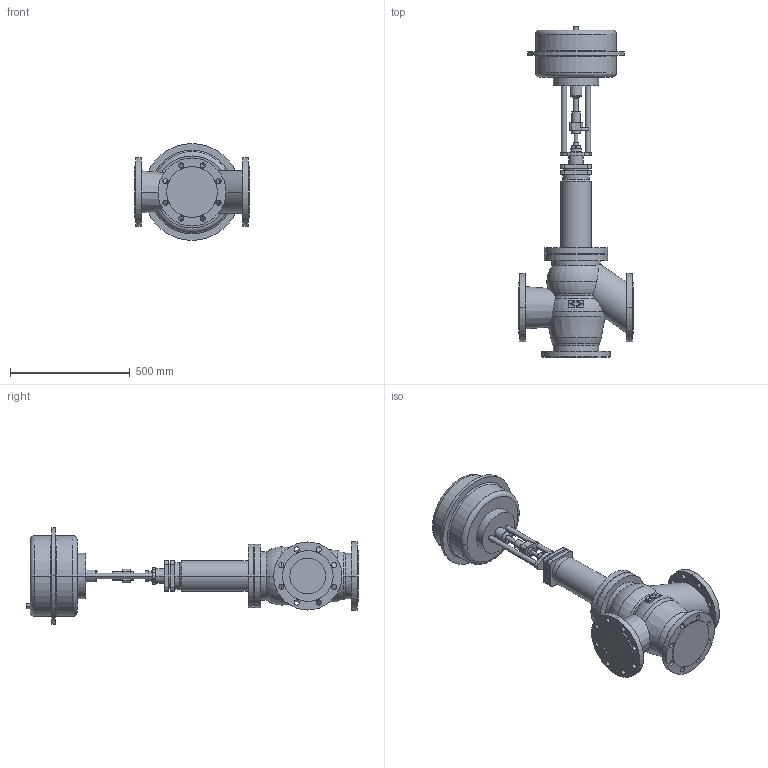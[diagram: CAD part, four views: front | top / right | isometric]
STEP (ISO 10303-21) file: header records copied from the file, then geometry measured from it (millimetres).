
FILE_DESCRIPTION(('OneSpaceDesigner STEP Export'),'2;1');
FILE_NAME('c000000437.stp','2007-01-26T13:15:38',(''),(''),'OneSpace Designer STEP processor for AP214 (Solid Model)','OneSpace Designer 14.00B 27-May-2006 (C) CoCreate Software GmbH','');
FILE_SCHEMA(('AUTOMOTIVE_DESIGN { 1 0 10303 214 1 1 1 1 }'));
Length unit declared in the file: millimetre
Products named in the file (2): 1; 2
Bounding box: 480 x 1389.2 x 405 mm (x, y, z)
Volume: 52431833.6 mm3; surface area: 1657991.8 mm2
Topology: 2 solids, 2 shells, 261 faces, 635 edges, 415 vertices
Faces by surface type: cylinder 132, plane 95, torus 26, cone 8
Entity records: 7161 total; most frequent: CARTESIAN_POINT 1434, ORIENTED_EDGE 1270, DIRECTION 1052, EDGE_CURVE 635, VERTEX_POINT 415, AXIS2_PLACEMENT_3D 389, EDGE_LOOP 346, VECTOR 274
